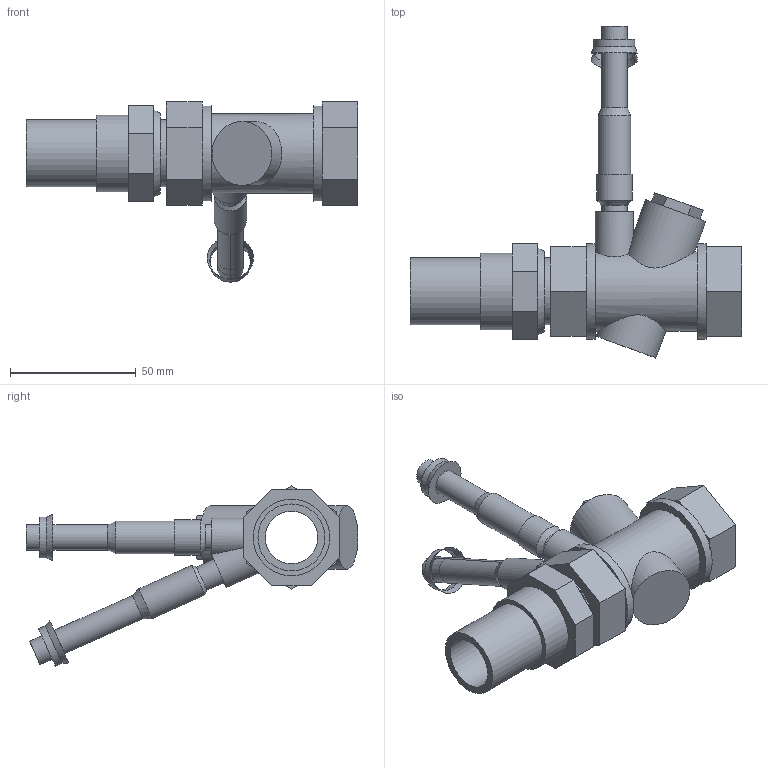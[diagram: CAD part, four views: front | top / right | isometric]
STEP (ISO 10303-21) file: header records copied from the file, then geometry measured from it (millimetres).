
FILE_DESCRIPTION(/* description */ ('VIC VALVE AUTO BALANCING SERIES 76K (SWTxFPT)','CAx-IF Rec.Pracs.---Representation and Presentation of Product Manufacturing Information (PMI)---4.0---2014-10-13'),/* implementation_level */ '2;1');
FILE_NAME(/* name */ 'C:\Users\kkamble\Desktop\KIRAN\2022\76B & 76K\76K\STEP\Victaulic_IPS_Valve Auto Balancing_Series 76K (SWTxFPT)\Victaulic_IPS_Valve Auto Balancing_Series 76K (SWTxFPT)_0.75 (20).stp',/* time_stamp */ '2022-03-04T13:34:05+05:00',/* author */ ('kkamble'),/* organization */ ('Victaulic'),/* preprocessor_version */ 'ST-DEVELOPER v17.2',/* originating_system */ 'Autodesk Inventor 2019',/* authorisation */ '');
FILE_SCHEMA (('AP242_MANAGED_MODEL_BASED_3D_ENGINEERING_MIM_LF { 1 0 10303 442 1 1 4 }'));
Length unit declared in the file: inch
Products named in the file (1): 76K-0.75
Bounding box: 132.08 x 132.08 x 71.72 mm (x, y, z)
Volume: 90435 mm3; surface area: 37520.3 mm2
Topology: 2 solids, 2 shells, 110 faces, 281 edges, 184 vertices
Faces by surface type: plane 73, cylinder 25, cone 12
Full cylindrical faces by diameter (mm): 10.16 x4, 12.954 x2, 14.122 x1, 16.256 x1, 20.93 x1, 25.4 x2, 26.67 x3, 30.48 x1, 31.496 x1, 38.1 x2
Entity records: 3779 total; most frequent: CARTESIAN_POINT 784, DIRECTION 635, ORIENTED_EDGE 562, EDGE_CURVE 281, AXIS2_PLACEMENT_3D 246, VERTEX_POINT 184, LINE 143, VECTOR 143
